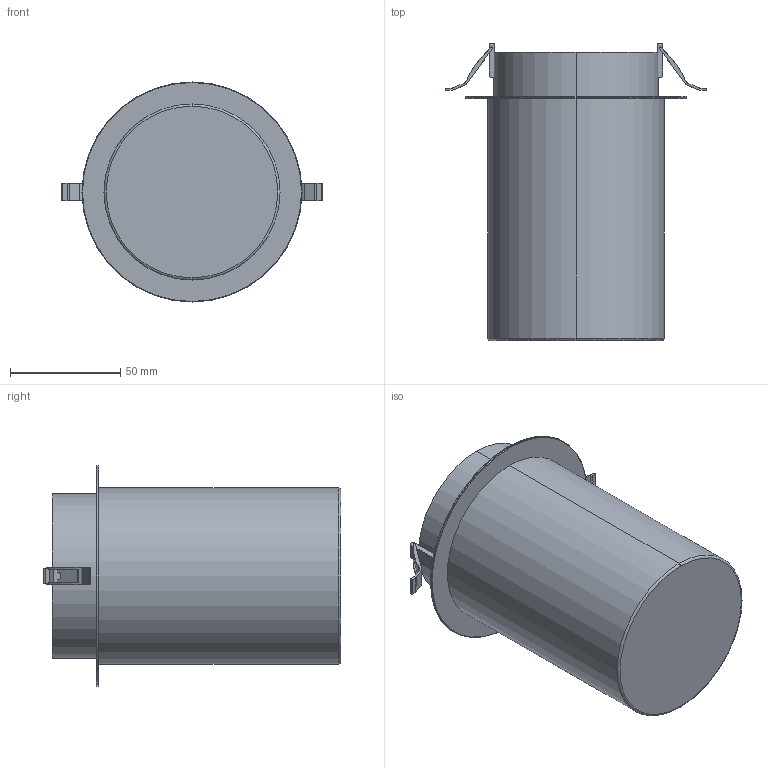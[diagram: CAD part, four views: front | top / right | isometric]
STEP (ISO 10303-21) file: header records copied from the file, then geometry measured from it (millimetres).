
FILE_DESCRIPTION (( 'STEP AP214' ), '1' );
FILE_NAME ('BALT_T0306.STEP', '2026-04-16T11:14:03', ( '' ), ( '' ), 'SwSTEP 2.0', 'SolidWorks 2023', '' );
FILE_SCHEMA (( 'AUTOMOTIVE_DESIGN' ));
Length unit declared in the file: millimetre
Products named in the file (3): BALT; BALT_T0306; EP1279
Assembly tree (2 placements, depth 2):
  BALT_T0306
    BALT
    EP1279
Bounding box: 118.33 x 135.1 x 100 mm (x, y, z)
Volume: 83798.1 mm3; surface area: 89990.7 mm2
Topology: 6 solids, 6 shells, 103 faces, 256 edges, 168 vertices
Faces by surface type: plane 55, cylinder 40, torus 6, bspline 2
Entity records: 3266 total; most frequent: CARTESIAN_POINT 602, DIRECTION 556, ORIENTED_EDGE 512, EDGE_CURVE 256, AXIS2_PLACEMENT_3D 202, VERTEX_POINT 168, VECTOR 152, LINE 152
